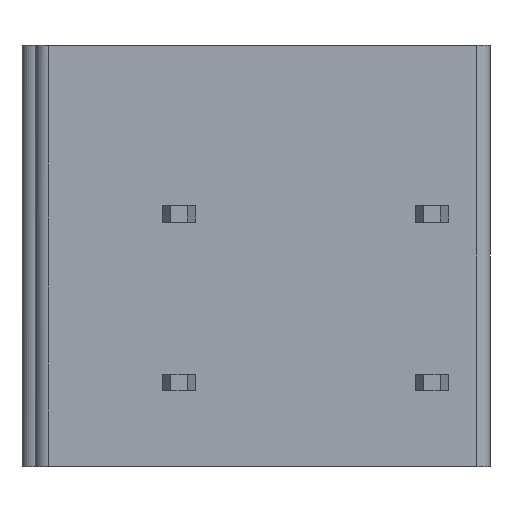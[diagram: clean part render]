
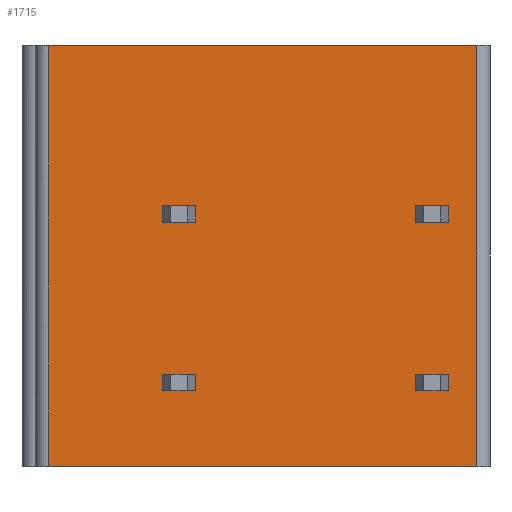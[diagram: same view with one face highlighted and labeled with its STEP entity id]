
A CAD part, front view. The second image highlights one B-rep face of the part: STEP entity #1715.
In plain terms, the highlighted planar face has unit normal (0, -1, 0).
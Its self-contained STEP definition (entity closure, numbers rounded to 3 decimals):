
#5=DIRECTION('',(-1.,0.,0.));
#6=VECTOR('',#5,1.);
#7=CARTESIAN_POINT('',(5.232,3.5,-10.41));
#8=LINE('',#7,#6);
#21=DIRECTION('',(0.,0.,-1.));
#22=VECTOR('',#21,0.5);
#23=CARTESIAN_POINT('',(5.232,3.5,-9.91));
#24=LINE('',#23,#22);
#45=DIRECTION('',(1.,0.,0.));
#46=VECTOR('',#45,1.);
#47=CARTESIAN_POINT('',(4.232,3.5,-9.91));
#48=LINE('',#47,#46);
#65=DIRECTION('',(0.,0.,1.));
#66=VECTOR('',#65,0.5);
#67=CARTESIAN_POINT('',(4.232,3.5,-10.41));
#68=LINE('',#67,#66);
#73=DIRECTION('',(-1.,0.,0.));
#74=VECTOR('',#73,1.);
#75=CARTESIAN_POINT('',(12.852,3.5,-4.83));
#76=LINE('',#75,#74);
#77=DIRECTION('',(0.,0.,-1.));
#78=VECTOR('',#77,0.5);
#79=CARTESIAN_POINT('',(11.852,3.5,-4.83));
#80=LINE('',#79,#78);
#81=DIRECTION('',(1.,0.,0.));
#82=VECTOR('',#81,1.);
#83=CARTESIAN_POINT('',(11.852,3.5,-5.33));
#84=LINE('',#83,#82);
#85=DIRECTION('',(0.,0.,1.));
#86=VECTOR('',#85,0.5);
#87=CARTESIAN_POINT('',(12.852,3.5,-5.33));
#88=LINE('',#87,#86);
#89=DIRECTION('',(0.,0.,1.));
#90=VECTOR('',#89,2.29);
#91=CARTESIAN_POINT('',(0.8,3.5,-12.7));
#92=LINE('',#91,#90);
#93=DIRECTION('',(0.,0.,1.));
#94=VECTOR('',#93,0.5);
#95=CARTESIAN_POINT('',(0.8,3.5,-10.41));
#96=LINE('',#95,#94);
#97=DIRECTION('',(0.,0.,1.));
#98=VECTOR('',#97,2.29);
#99=CARTESIAN_POINT('',(0.8,3.5,-9.91));
#100=LINE('',#99,#98);
#109=DIRECTION('',(1.,0.,0.));
#110=VECTOR('',#109,1.);
#111=CARTESIAN_POINT('',(11.852,3.5,-9.91));
#112=LINE('',#111,#110);
#117=DIRECTION('',(0.,0.,-1.));
#118=VECTOR('',#117,0.5);
#119=CARTESIAN_POINT('',(12.852,3.5,-9.91));
#120=LINE('',#119,#118);
#125=DIRECTION('',(-1.,0.,0.));
#126=VECTOR('',#125,1.);
#127=CARTESIAN_POINT('',(12.852,3.5,-10.41));
#128=LINE('',#127,#126);
#141=DIRECTION('',(0.,0.,1.));
#142=VECTOR('',#141,0.5);
#143=CARTESIAN_POINT('',(11.852,3.5,-10.41));
#144=LINE('',#143,#142);
#229=DIRECTION('',(-1.,0.,0.));
#230=VECTOR('',#229,1.);
#231=CARTESIAN_POINT('',(5.232,3.5,-5.33));
#232=LINE('',#231,#230);
#245=DIRECTION('',(0.,0.,-1.));
#246=VECTOR('',#245,0.5);
#247=CARTESIAN_POINT('',(5.232,3.5,-4.83));
#248=LINE('',#247,#246);
#269=DIRECTION('',(0.,0.,1.));
#270=VECTOR('',#269,0.5);
#271=CARTESIAN_POINT('',(4.232,3.5,-5.33));
#272=LINE('',#271,#270);
#297=DIRECTION('',(1.,0.,0.));
#298=VECTOR('',#297,1.);
#299=CARTESIAN_POINT('',(4.232,3.5,-4.83));
#300=LINE('',#299,#298);
#305=DIRECTION('',(0.,0.,1.));
#306=VECTOR('',#305,5.08);
#307=CARTESIAN_POINT('',(13.702,3.5,-12.7));
#308=LINE('',#307,#306);
#309=DIRECTION('',(0.,0.,1.));
#310=VECTOR('',#309,7.62);
#311=CARTESIAN_POINT('',(13.702,3.5,-7.62));
#312=LINE('',#311,#310);
#808=DIRECTION('',(0.,0.,-1.));
#809=VECTOR('',#808,2.29);
#810=CARTESIAN_POINT('',(0.8,3.5,-5.33));
#811=LINE('',#810,#809);
#816=DIRECTION('',(0.,0.,-1.));
#817=VECTOR('',#816,2.54);
#818=CARTESIAN_POINT('',(0.8,3.5,0.));
#819=LINE('',#818,#817);
#820=DIRECTION('',(0.,0.,-1.));
#821=VECTOR('',#820,2.29);
#822=CARTESIAN_POINT('',(0.8,3.5,-2.54));
#823=LINE('',#822,#821);
#824=DIRECTION('',(0.,0.,-1.));
#825=VECTOR('',#824,0.5);
#826=CARTESIAN_POINT('',(0.8,3.5,-4.83));
#827=LINE('',#826,#825);
#860=DIRECTION('',(1.,0.,0.));
#861=VECTOR('',#860,12.902);
#862=CARTESIAN_POINT('',(0.8,3.5,-12.7));
#863=LINE('',#862,#861);
#887=DIRECTION('',(-1.,0.,0.));
#888=VECTOR('',#887,12.902);
#889=CARTESIAN_POINT('',(13.702,3.5,0.));
#890=LINE('',#889,#888);
#1174=CARTESIAN_POINT('',(12.852,3.5,-5.33));
#1175=VERTEX_POINT('',#1174);
#1176=CARTESIAN_POINT('',(11.852,3.5,-5.33));
#1177=VERTEX_POINT('',#1176);
#1182=CARTESIAN_POINT('',(12.852,3.5,-4.83));
#1183=VERTEX_POINT('',#1182);
#1188=CARTESIAN_POINT('',(11.852,3.5,-4.83));
#1189=VERTEX_POINT('',#1188);
#1190=CARTESIAN_POINT('',(0.8,3.5,-4.83));
#1191=CARTESIAN_POINT('',(0.8,3.5,-5.33));
#1192=VERTEX_POINT('',#1190);
#1193=VERTEX_POINT('',#1191);
#1194=CARTESIAN_POINT('',(0.8,3.5,0.));
#1195=CARTESIAN_POINT('',(0.8,3.5,-2.54));
#1196=VERTEX_POINT('',#1194);
#1197=VERTEX_POINT('',#1195);
#1204=CARTESIAN_POINT('',(13.702,3.5,0.));
#1205=VERTEX_POINT('',#1204);
#1327=CARTESIAN_POINT('',(5.232,3.5,-5.33));
#1328=CARTESIAN_POINT('',(4.232,3.5,-5.33));
#1329=VERTEX_POINT('',#1327);
#1330=VERTEX_POINT('',#1328);
#1341=CARTESIAN_POINT('',(5.232,3.5,-4.83));
#1342=VERTEX_POINT('',#1341);
#1347=CARTESIAN_POINT('',(4.232,3.5,-4.83));
#1348=VERTEX_POINT('',#1347);
#1383=CARTESIAN_POINT('',(0.8,3.5,-10.41));
#1384=CARTESIAN_POINT('',(0.8,3.5,-9.91));
#1385=VERTEX_POINT('',#1383);
#1386=VERTEX_POINT('',#1384);
#1387=CARTESIAN_POINT('',(0.8,3.5,-12.7));
#1388=VERTEX_POINT('',#1387);
#1389=CARTESIAN_POINT('',(13.702,3.5,-12.7));
#1390=VERTEX_POINT('',#1389);
#1391=CARTESIAN_POINT('',(5.232,3.5,-10.41));
#1392=CARTESIAN_POINT('',(4.232,3.5,-10.41));
#1393=VERTEX_POINT('',#1391);
#1394=VERTEX_POINT('',#1392);
#1395=CARTESIAN_POINT('',(5.232,3.5,-9.91));
#1396=VERTEX_POINT('',#1395);
#1397=CARTESIAN_POINT('',(4.232,3.5,-9.91));
#1398=VERTEX_POINT('',#1397);
#1399=CARTESIAN_POINT('',(11.852,3.5,-9.91));
#1400=CARTESIAN_POINT('',(12.852,3.5,-9.91));
#1401=VERTEX_POINT('',#1399);
#1402=VERTEX_POINT('',#1400);
#1403=CARTESIAN_POINT('',(12.852,3.5,-10.41));
#1404=CARTESIAN_POINT('',(11.852,3.5,-10.41));
#1405=VERTEX_POINT('',#1403);
#1406=VERTEX_POINT('',#1404);
#1526=CARTESIAN_POINT('',(13.702,3.5,-7.62));
#1527=VERTEX_POINT('',#1526);
#1528=CARTESIAN_POINT('',(0.8,3.5,-7.62));
#1529=VERTEX_POINT('',#1528);
#1650=CARTESIAN_POINT('',(7.251,3.5,-3.81));
#1651=DIRECTION('',(0.,1.,0.));
#1652=DIRECTION('',(-1.,0.,0.));
#1653=AXIS2_PLACEMENT_3D('',#1650,#1651,#1652);
#1654=PLANE('',#1653);
#1656=ORIENTED_EDGE('',*,*,#1655,.F.);
#1658=ORIENTED_EDGE('',*,*,#1657,.F.);
#1660=ORIENTED_EDGE('',*,*,#1659,.F.);
#1662=ORIENTED_EDGE('',*,*,#1661,.T.);
#1664=ORIENTED_EDGE('',*,*,#1663,.T.);
#1666=ORIENTED_EDGE('',*,*,#1665,.T.);
#1668=ORIENTED_EDGE('',*,*,#1667,.F.);
#1670=ORIENTED_EDGE('',*,*,#1669,.F.);
#1672=ORIENTED_EDGE('',*,*,#1671,.F.);
#1674=ORIENTED_EDGE('',*,*,#1673,.F.);
#1676=ORIENTED_EDGE('',*,*,#1675,.F.);
#1677=EDGE_LOOP('',(#1656,#1658,#1660,#1662,#1664,#1666,#1668,#1670,#1672,#1674,
#1676));
#1678=FACE_OUTER_BOUND('',#1677,.F.);
#1679=ORIENTED_EDGE('',*,*,#1567,.F.);
#1680=ORIENTED_EDGE('',*,*,#1588,.F.);
#1681=ORIENTED_EDGE('',*,*,#1606,.F.);
#1682=ORIENTED_EDGE('',*,*,#1643,.F.);
#1683=EDGE_LOOP('',(#1679,#1680,#1681,#1682));
#1684=FACE_BOUND('',#1683,.F.);
#1686=ORIENTED_EDGE('',*,*,#1685,.T.);
#1688=ORIENTED_EDGE('',*,*,#1687,.T.);
#1690=ORIENTED_EDGE('',*,*,#1689,.T.);
#1692=ORIENTED_EDGE('',*,*,#1691,.T.);
#1693=EDGE_LOOP('',(#1686,#1688,#1690,#1692));
#1694=FACE_BOUND('',#1693,.F.);
#1696=ORIENTED_EDGE('',*,*,#1695,.F.);
#1698=ORIENTED_EDGE('',*,*,#1697,.F.);
#1700=ORIENTED_EDGE('',*,*,#1699,.F.);
#1702=ORIENTED_EDGE('',*,*,#1701,.F.);
#1703=EDGE_LOOP('',(#1696,#1698,#1700,#1702));
#1704=FACE_BOUND('',#1703,.F.);
#1706=ORIENTED_EDGE('',*,*,#1705,.F.);
#1708=ORIENTED_EDGE('',*,*,#1707,.F.);
#1710=ORIENTED_EDGE('',*,*,#1709,.F.);
#1712=ORIENTED_EDGE('',*,*,#1711,.F.);
#1713=EDGE_LOOP('',(#1706,#1708,#1710,#1712));
#1714=FACE_BOUND('',#1713,.F.);
#1567=EDGE_CURVE('',#1393,#1394,#8,.T.);
#1588=EDGE_CURVE('',#1396,#1393,#24,.T.);
#1606=EDGE_CURVE('',#1398,#1396,#48,.T.);
#1643=EDGE_CURVE('',#1394,#1398,#68,.T.);
#1655=EDGE_CURVE('',#1527,#1205,#312,.T.);
#1657=EDGE_CURVE('',#1390,#1527,#308,.T.);
#1659=EDGE_CURVE('',#1388,#1390,#863,.T.);
#1661=EDGE_CURVE('',#1388,#1385,#92,.T.);
#1663=EDGE_CURVE('',#1385,#1386,#96,.T.);
#1665=EDGE_CURVE('',#1386,#1529,#100,.T.);
#1667=EDGE_CURVE('',#1193,#1529,#811,.T.);
#1669=EDGE_CURVE('',#1192,#1193,#827,.T.);
#1671=EDGE_CURVE('',#1197,#1192,#823,.T.);
#1673=EDGE_CURVE('',#1196,#1197,#819,.T.);
#1675=EDGE_CURVE('',#1205,#1196,#890,.T.);
#1685=EDGE_CURVE('',#1183,#1189,#76,.T.);
#1687=EDGE_CURVE('',#1189,#1177,#80,.T.);
#1689=EDGE_CURVE('',#1177,#1175,#84,.T.);
#1691=EDGE_CURVE('',#1175,#1183,#88,.T.);
#1695=EDGE_CURVE('',#1329,#1330,#232,.T.);
#1697=EDGE_CURVE('',#1342,#1329,#248,.T.);
#1699=EDGE_CURVE('',#1348,#1342,#300,.T.);
#1701=EDGE_CURVE('',#1330,#1348,#272,.T.);
#1705=EDGE_CURVE('',#1401,#1402,#112,.T.);
#1707=EDGE_CURVE('',#1406,#1401,#144,.T.);
#1709=EDGE_CURVE('',#1405,#1406,#128,.T.);
#1711=EDGE_CURVE('',#1402,#1405,#120,.T.);
#1715=ADVANCED_FACE('',(#1678,#1684,#1694,#1704,#1714),#1654,.F.);
